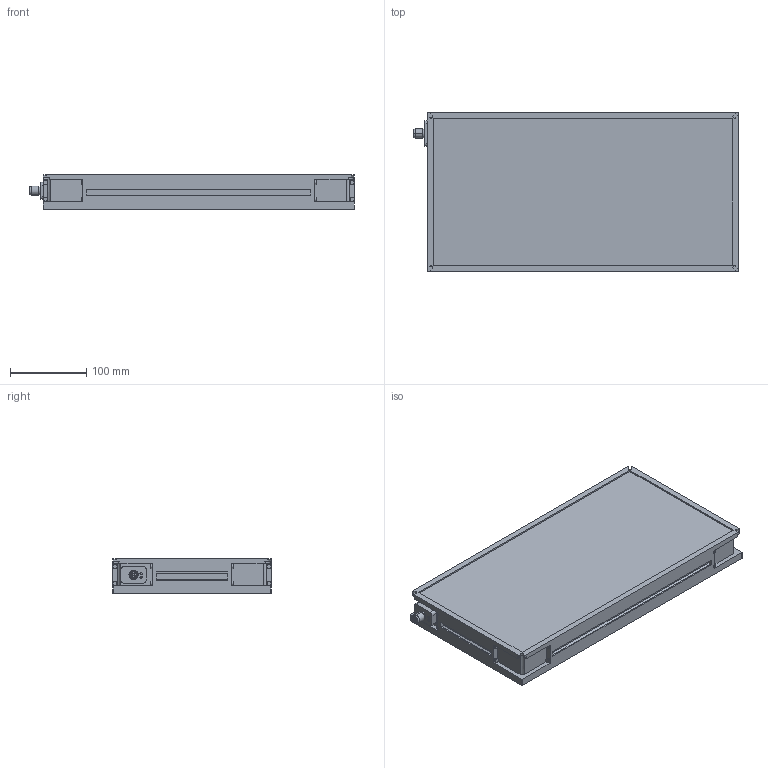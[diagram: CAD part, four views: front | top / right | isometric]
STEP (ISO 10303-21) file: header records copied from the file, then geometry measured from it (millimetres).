
FILE_DESCRIPTION (( 'STEP AP214' ), '1' );
FILE_NAME ('MBACK-xxxx-xxx-M1_CLIENT200x400.STEP', '2022-03-31T15:58:43', ( '' ), ( '' ), 'SwSTEP 2.0', 'SolidWorks 2020', '' );
FILE_SCHEMA (( 'AUTOMOTIVE_DESIGN' ));
Length unit declared in the file: millimetre
Products named in the file (1): MBACK-xxxx-xxx-M1_CLIENT200x400
Bounding box: 425.9 x 208 x 45.5 mm (x, y, z)
Volume: 3474323.5 mm3; surface area: 251286.9 mm2
Topology: 1 solids, 1 shells, 442 faces, 1144 edges, 760 vertices
Faces by surface type: plane 249, cylinder 105, bspline 80, cone 8
Entity records: 17236 total; most frequent: CARTESIAN_POINT 6699, ORIENTED_EDGE 2288, DIRECTION 1936, EDGE_CURVE 1144, VERTEX_POINT 760, VECTOR 758, LINE 758, AXIS2_PLACEMENT_3D 589
